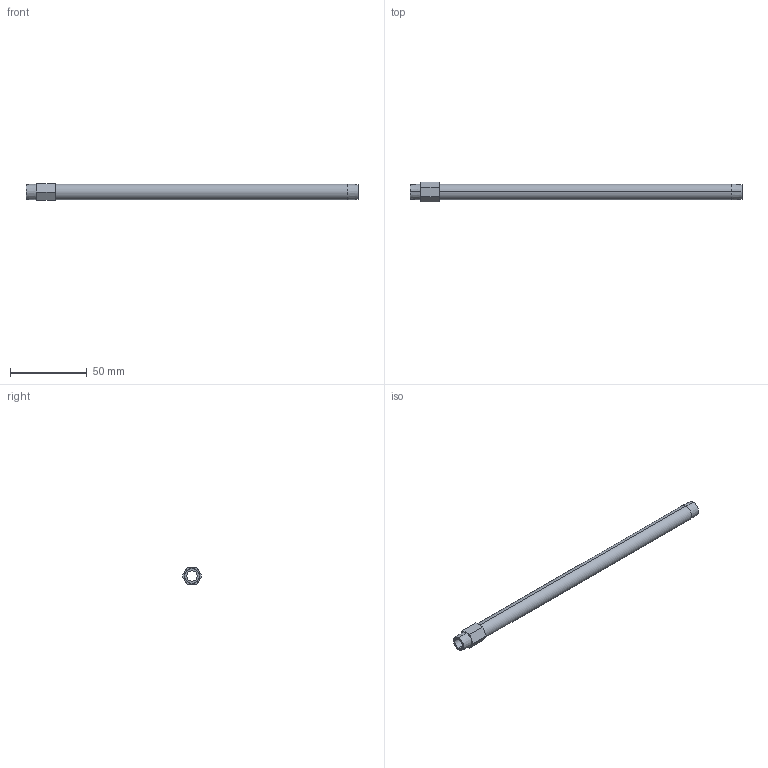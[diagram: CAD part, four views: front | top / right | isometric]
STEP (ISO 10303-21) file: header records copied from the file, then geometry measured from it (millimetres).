
FILE_DESCRIPTION (( 'STEP AP203' ), '1' );
FILE_NAME ('APN12L8.5.step', '2020-08-19T02:44:31', ( 'Microsoft Corporation' ), ( 'MS' ), 'SwSTEP 2.0', 'SolidWorks 2018', '' );
FILE_SCHEMA (( 'CONFIG_CONTROL_DESIGN' ));
Length unit declared in the file: inch
Products named in the file (1): APN12L8.5
Bounding box: 215.9 x 12.61 x 10.92 mm (x, y, z)
Volume: 10193 mm3; surface area: 11773.9 mm2
Topology: 1 solids, 1 shells, 18 faces, 40 edges, 26 vertices
Faces by surface type: plane 10, cylinder 4, cone 4
Entity records: 585 total; most frequent: DIRECTION 92, CARTESIAN_POINT 85, ORIENTED_EDGE 80, EDGE_CURVE 40, AXIS2_PLACEMENT_3D 33, VERTEX_POINT 26, LINE 26, VECTOR 26
